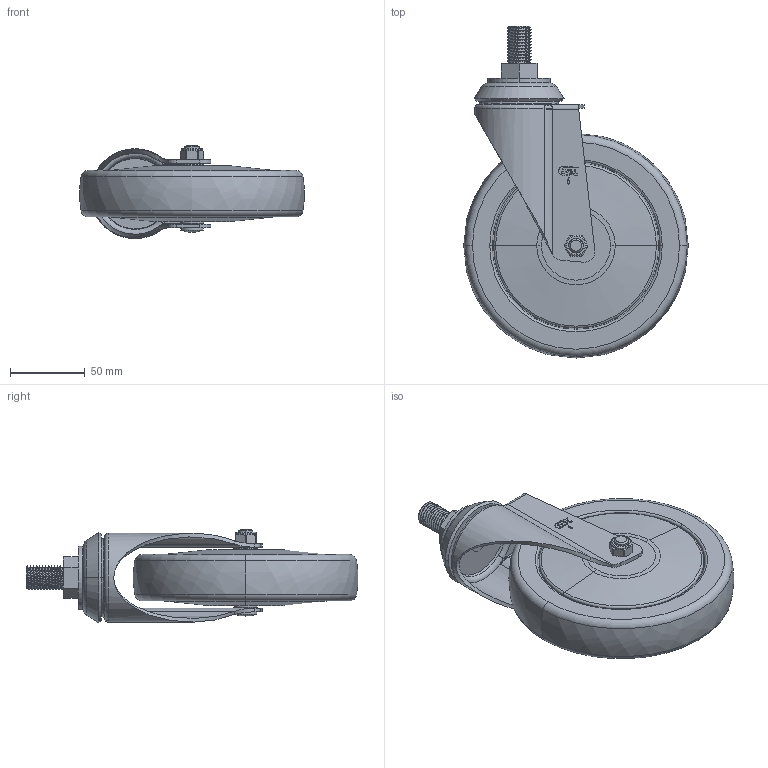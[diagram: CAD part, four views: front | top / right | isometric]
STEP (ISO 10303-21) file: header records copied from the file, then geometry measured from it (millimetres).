
FILE_DESCRIPTION((''),'2;1');
FILE_NAME('57236-576-77_ASM','2021-01-05T',('lenovo'),(''),'PRO/ENGINEER BY PARAMETRIC TECHNOLOGY CORPORATION, 2010280','PRO/ENGINEER BY PARAMETRIC TECHNOLOGY CORPORATION, 2010280','');
FILE_SCHEMA(('CONFIG_CONTROL_DESIGN'));
Length unit declared in the file: millimetre
Products named in the file (7): 5010-053; 5726-311; 5720-211; 576-77; 5710-020; 5710-031; 57236-576-77_ASM
Assembly tree (6 placements, depth 2):
  57236-576-77_ASM
    5010-053
    5726-311
    5720-211
    576-77
    5710-020
    5710-031
Bounding box: 149.8 x 221.4 x 62.25 mm (x, y, z)
Volume: 642389.2 mm3; surface area: 97227.1 mm2
Topology: 6 solids, 6 shells, 324 faces, 804 edges, 502 vertices
Faces by surface type: plane 131, cylinder 75, bspline 56, cone 33, torus 27, sphere 2
Entity records: 14861 total; most frequent: CARTESIAN_POINT 7371, ORIENTED_EDGE 1592, DIRECTION 1427, EDGE_CURVE 796, AXIS2_PLACEMENT_3D 512, VERTEX_POINT 500, VECTOR 403, LINE 403
